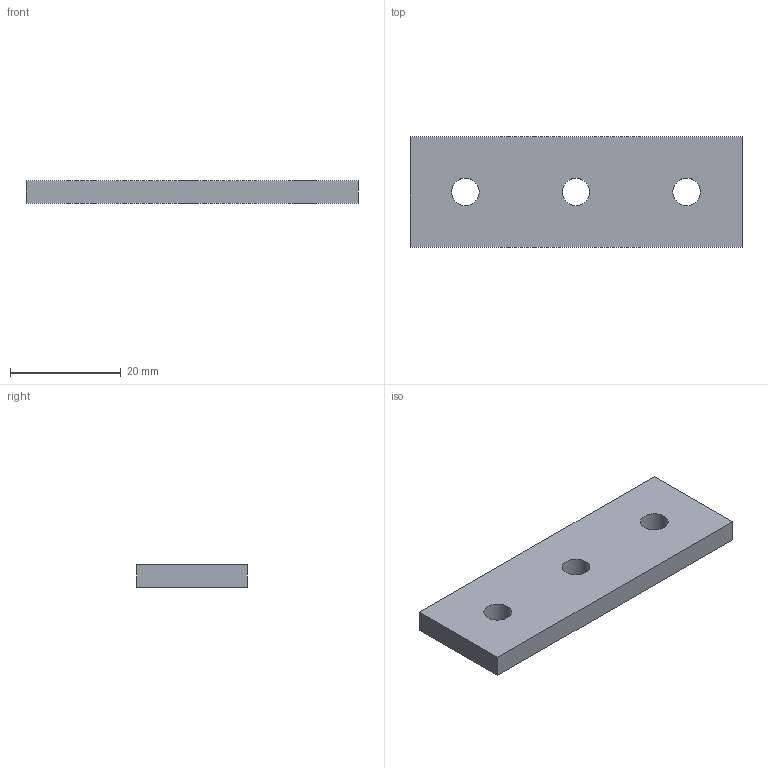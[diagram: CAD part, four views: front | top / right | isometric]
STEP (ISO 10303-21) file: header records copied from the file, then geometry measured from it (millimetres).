
FILE_DESCRIPTION(/* description */ (''),/* implementation_level */ '2;1');
FILE_NAME(/* name */ 'Plate Connector - 3 Hole - Single Slot - 20 Series - Aluminium - Black.step',/* time_stamp */ '2025-10-18T03:37:14+03:00',/* author */ (''),/* organization */ (''),/* preprocessor_version */ 'ST-DEVELOPER v20.1',/* originating_system */ 'Autodesk Translation Framework v14.17.0.0',/* authorisation */ '');
FILE_SCHEMA (('AUTOMOTIVE_DESIGN { 1 0 10303 214 3 1 1 }'));
Length unit declared in the file: millimetre
Products named in the file (1): Plate Connector - 3 Hole - Single Slot - 20 Series - Aluminium - Blac
k
Bounding box: 60 x 20 x 4 mm (x, y, z)
Volume: 4564.4 mm3; surface area: 3110.7 mm2
Topology: 1 solids, 1 shells, 9 faces, 21 edges, 14 vertices
Faces by surface type: plane 6, cylinder 3
Full cylindrical faces by diameter (mm): 5 x3
Entity records: 306 total; most frequent: DIRECTION 47, CARTESIAN_POINT 45, ORIENTED_EDGE 42, EDGE_CURVE 21, AXIS2_PLACEMENT_3D 16, EDGE_LOOP 15, LINE 15, VECTOR 15
